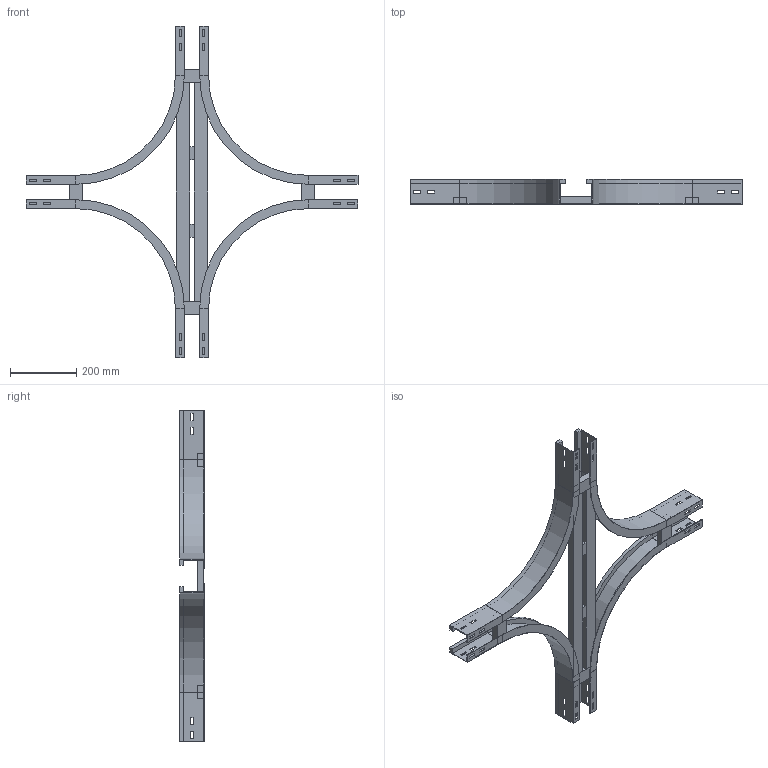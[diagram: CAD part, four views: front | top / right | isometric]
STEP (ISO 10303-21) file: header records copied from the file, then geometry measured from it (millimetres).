
FILE_DESCRIPTION (( 'STEP AP214' ), '1' );
FILE_NAME ('A2_17B3C100.step', '2025-02-21T15:58:22', ( '' ), ( '' ), 'SwSTEP 2.0', 'SolidWorks 2023', '' );
FILE_SCHEMA (( 'AUTOMOTIVE_DESIGN' ));
Length unit declared in the file: millimetre
Products named in the file (5): TRAVERSINO_INTERMEDIO_R300+100; A2_TRAVERSINO_LONG._R300+100; A2_LONGH.INTERNO 90°_H75_R300; TRAVERSINO_100; A2_17B3C100
Assembly tree (12 placements, depth 2):
  A2_17B3C100
    A2_LONGH.INTERNO 90°_H75_R300  x4
    TRAVERSINO_100  x4
    A2_TRAVERSINO_LONG._R300+100  x2
    TRAVERSINO_INTERMEDIO_R300+100  x2
Bounding box: 1000 x 75 x 1000 mm (x, y, z)
Volume: 2620738.1 mm3; surface area: 956748.6 mm2
Topology: 12 solids, 12 shells, 280 faces, 704 edges, 448 vertices
Faces by surface type: plane 264, cylinder 16
Entity records: 2442 total; most frequent: CARTESIAN_POINT 399, DIRECTION 378, ORIENTED_EDGE 376, EDGE_CURVE 188, LINE 180, VECTOR 180, VERTEX_POINT 120, AXIS2_PLACEMENT_3D 99
